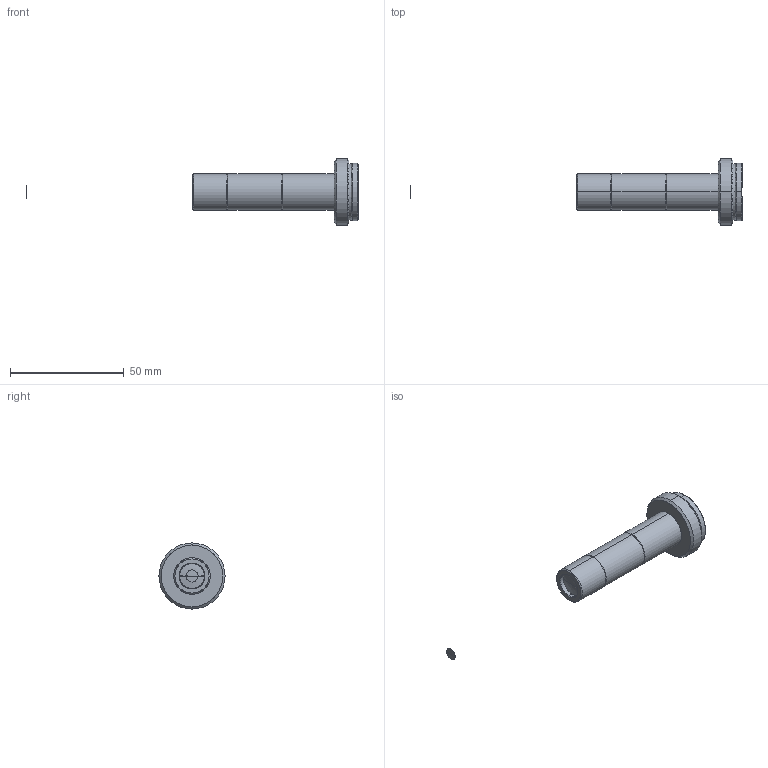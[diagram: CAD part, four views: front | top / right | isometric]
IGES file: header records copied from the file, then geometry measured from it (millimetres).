
Start section: SolidWorks IGES file using analytic representation for surfaces
Bounding box: 145.78 x 29 x 29 mm (x, y, z)
Surface area: 6346.9 mm2 (no closed solid volume)
Topology: 0 solids, 0 shells, 72 faces, 808 edges, 806 vertices
Faces by surface type: revolution 64, bspline 8
